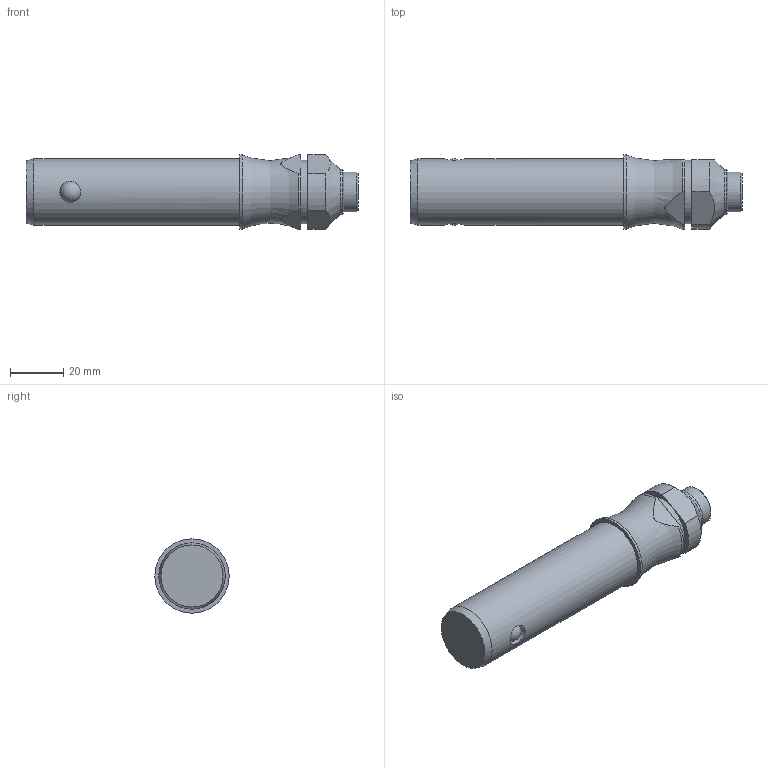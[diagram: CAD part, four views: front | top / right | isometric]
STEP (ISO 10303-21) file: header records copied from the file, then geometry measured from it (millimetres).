
FILE_DESCRIPTION( ( 'STEP AP203' ), '1' );
FILE_NAME( 'C:/Temp/Ganter_Step_05_03_2020/data/3_1/gn113_3/Stainless Steel-Ball lock pin GN 113.3-25-60 (activated).stp', '2020-03-12T08:19:09', ( 'License CC BY-ND 4.0' ), ( 'CADENAS' ), ' ', 'PARTsolutions', ' ' );
FILE_SCHEMA( ( 'CONFIG_CONTROL_DESIGN' ) );
Length unit declared in the file: millimetre
Products named in the file (1): _Stainless Steel-Ball lock pin GN 113.3-25-60 (activated)
Bounding box: 125.05 x 28 x 28 mm (x, y, z)
Volume: 59117.3 mm3; surface area: 11066.4 mm2
Topology: 1 solids, 1 shells, 31 faces, 74 edges, 46 vertices
Faces by surface type: cylinder 13, plane 11, cone 4, sphere 2, torus 1
Full cylindrical faces by diameter (mm): 8 x2, 15 x1, 17 x1, 24 x1, 25 x1, 28 x1
Entity records: 1046 total; most frequent: CARTESIAN_POINT 382, DIRECTION 134, ORIENTED_EDGE 104, AXIS2_PLACEMENT_3D 58, EDGE_CURVE 52, EDGE_LOOP 48, VERTEX_POINT 40, FACE_OUTER_BOUND 39
